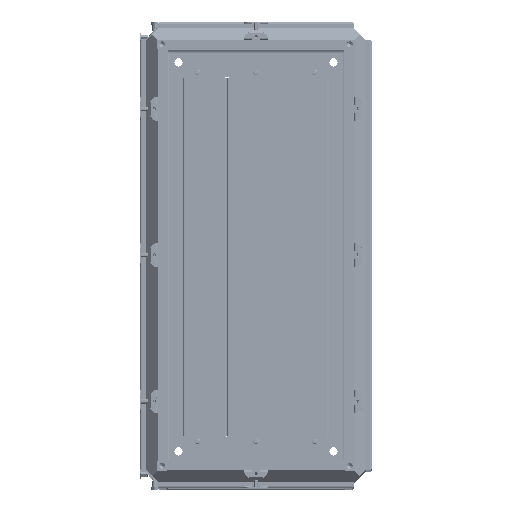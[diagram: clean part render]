
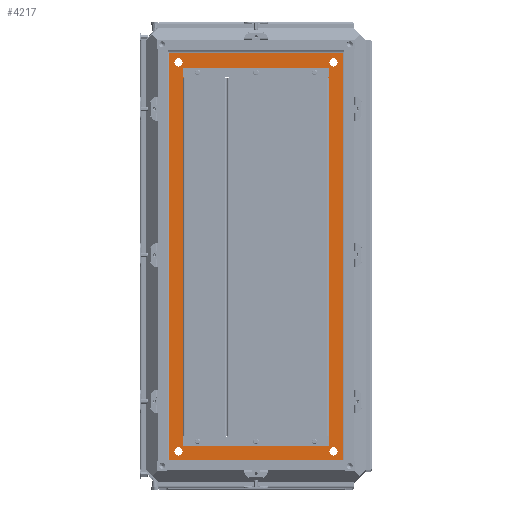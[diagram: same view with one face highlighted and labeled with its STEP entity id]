
A CAD part, top view. The second image highlights one B-rep face of the part: STEP entity #4217.
In plain terms, the highlighted planar face has unit normal (0, 0, 1).
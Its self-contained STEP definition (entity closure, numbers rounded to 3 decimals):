
#4217=ADVANCED_FACE('',(#16321,#16323,#16325,#16327,#16329,#16331),#16333,.F.);
#16321=FACE_BOUND('',#16322,.T.);
#16322=EDGE_LOOP('',(#108467,#108468,#108469,#108470));
#16323=FACE_BOUND('',#16324,.T.);
#16324=EDGE_LOOP('',(#108471,#108472,#108473,#108474));
#16325=FACE_BOUND('',#16326,.T.);
#16326=EDGE_LOOP('',(#108475));
#16327=FACE_BOUND('',#16328,.T.);
#16328=EDGE_LOOP('',(#108476));
#16329=FACE_BOUND('',#16330,.T.);
#16330=EDGE_LOOP('',(#108477));
#16331=FACE_BOUND('',#16332,.T.);
#16332=EDGE_LOOP('',(#108478));
#16333=PLANE('',#16334);
#16334=AXIS2_PLACEMENT_3D('',#16335,#16336,#16337);
#16335=CARTESIAN_POINT('',(0.,0.,-47.5));
#16336=DIRECTION('',(0.,0.,-1.));
#16337=DIRECTION('',(0.,1.,0.));
#108467=ORIENTED_EDGE('',*,*,#164393,.F.);
#108468=ORIENTED_EDGE('',*,*,#164394,.F.);
#108469=ORIENTED_EDGE('',*,*,#164395,.T.);
#108470=ORIENTED_EDGE('',*,*,#164396,.T.);
#108471=ORIENTED_EDGE('',*,*,#164397,.T.);
#108472=ORIENTED_EDGE('',*,*,#164398,.F.);
#108473=ORIENTED_EDGE('',*,*,#164399,.F.);
#108474=ORIENTED_EDGE('',*,*,#164400,.F.);
#108475=ORIENTED_EDGE('',*,*,#164401,.T.);
#108476=ORIENTED_EDGE('',*,*,#164402,.F.);
#108477=ORIENTED_EDGE('',*,*,#164403,.F.);
#108478=ORIENTED_EDGE('',*,*,#164404,.T.);
#164393=EDGE_CURVE('',#193256,#193257,#193258,.F.);
#164394=EDGE_CURVE('',#193259,#193256,#193260,.F.);
#164395=EDGE_CURVE('',#193259,#193261,#193262,.F.);
#164396=EDGE_CURVE('',#193261,#193257,#193263,.F.);
#164397=EDGE_CURVE('',#193264,#193265,#193266,.F.);
#164398=EDGE_CURVE('',#193267,#193265,#193268,.F.);
#164399=EDGE_CURVE('',#193269,#193267,#193270,.F.);
#164400=EDGE_CURVE('',#193264,#193269,#193271,.F.);
#164401=EDGE_CURVE('',#193272,#193272,#193273,.T.);
#164402=EDGE_CURVE('',#193274,#193274,#193275,.T.);
#164403=EDGE_CURVE('',#193276,#193276,#193277,.T.);
#164404=EDGE_CURVE('',#193278,#193278,#193279,.T.);
#193256=VERTEX_POINT('',#243581);
#193257=VERTEX_POINT('',#243582);
#193258=LINE('',#243583,#243584);
#193259=VERTEX_POINT('',#243586);
#193260=LINE('',#243587,#243588);
#193261=VERTEX_POINT('',#243590);
#193262=LINE('',#243591,#243592);
#193263=LINE('',#243594,#243595);
#193264=VERTEX_POINT('',#243597);
#193265=VERTEX_POINT('',#243598);
#193266=LINE('',#243599,#243600);
#193267=VERTEX_POINT('',#243602);
#193268=LINE('',#243603,#243604);
#193269=VERTEX_POINT('',#243606);
#193270=LINE('',#243607,#243608);
#193271=LINE('',#243610,#243611);
#193272=VERTEX_POINT('',#243613);
#193273=CIRCLE('',#243614,7.);
#193274=VERTEX_POINT('',#243618);
#193275=CIRCLE('',#243619,7.);
#193276=VERTEX_POINT('',#243623);
#193277=CIRCLE('',#243624,7.);
#193278=VERTEX_POINT('',#243628);
#193279=CIRCLE('',#243629,7.);
#243581=CARTESIAN_POINT('',(-1.6,1.6,-47.5));
#243582=CARTESIAN_POINT('',(-300.4,1.6,-47.5));
#243583=CARTESIAN_POINT('',(-300.4,1.6,-47.5));
#243584=VECTOR('',#243585,1.);
#243585=DIRECTION('',(1.,0.,0.));
#243586=CARTESIAN_POINT('',(-1.6,700.4,-47.5));
#243587=CARTESIAN_POINT('',(-1.6,1.6,-47.5));
#243588=VECTOR('',#243589,1.);
#243589=DIRECTION('',(0.,1.,0.));
#243590=CARTESIAN_POINT('',(-300.4,700.4,-47.5));
#243591=CARTESIAN_POINT('',(-300.4,700.4,-47.5));
#243592=VECTOR('',#243593,1.);
#243593=DIRECTION('',(1.,0.,0.));
#243594=CARTESIAN_POINT('',(-300.4,1.6,-47.5));
#243595=VECTOR('',#243596,1.);
#243596=DIRECTION('',(0.,1.,0.));
#243597=CARTESIAN_POINT('',(-39.4,39.4,-47.5));
#243598=CARTESIAN_POINT('',(-262.6,39.4,-47.5));
#243599=CARTESIAN_POINT('',(-262.6,39.4,-47.5));
#243600=VECTOR('',#243601,1.);
#243601=DIRECTION('',(1.,0.,0.));
#243602=CARTESIAN_POINT('',(-262.6,662.6,-47.5));
#243603=CARTESIAN_POINT('',(-262.6,39.4,-47.5));
#243604=VECTOR('',#243605,1.);
#243605=DIRECTION('',(0.,1.,0.));
#243606=CARTESIAN_POINT('',(-39.4,662.6,-47.5));
#243607=CARTESIAN_POINT('',(-262.6,662.6,-47.5));
#243608=VECTOR('',#243609,1.);
#243609=DIRECTION('',(1.,0.,0.));
#243610=CARTESIAN_POINT('',(-39.4,662.6,-47.5));
#243611=VECTOR('',#243612,1.);
#243612=DIRECTION('',(0.,-1.,0.));
#243613=CARTESIAN_POINT('',(-18.5,25.5,-47.5));
#243614=AXIS2_PLACEMENT_3D('',#243615,#243616,#243617);
#243615=CARTESIAN_POINT('',(-18.5,18.5,-47.5));
#243616=DIRECTION('',(0.,0.,-1.));
#243617=DIRECTION('',(0.,1.,0.));
#243618=CARTESIAN_POINT('',(-283.5,25.5,-47.5));
#243619=AXIS2_PLACEMENT_3D('',#243620,#243621,#243622);
#243620=CARTESIAN_POINT('',(-283.5,18.5,-47.5));
#243621=DIRECTION('',(0.,0.,1.));
#243622=DIRECTION('',(0.,1.,0.));
#243623=CARTESIAN_POINT('',(-18.5,676.5,-47.5));
#243624=AXIS2_PLACEMENT_3D('',#243625,#243626,#243627);
#243625=CARTESIAN_POINT('',(-18.5,683.5,-47.5));
#243626=DIRECTION('',(0.,0.,1.));
#243627=DIRECTION('',(0.,-1.,0.));
#243628=CARTESIAN_POINT('',(-283.5,676.5,-47.5));
#243629=AXIS2_PLACEMENT_3D('',#243630,#243631,#243632);
#243630=CARTESIAN_POINT('',(-283.5,683.5,-47.5));
#243631=DIRECTION('',(0.,0.,-1.));
#243632=DIRECTION('',(0.,-1.,0.));
